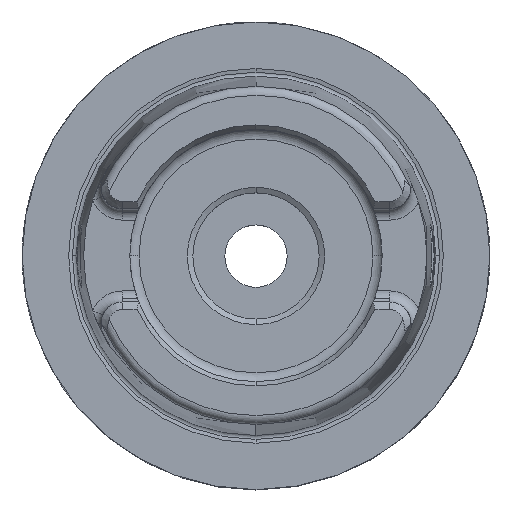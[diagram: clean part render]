
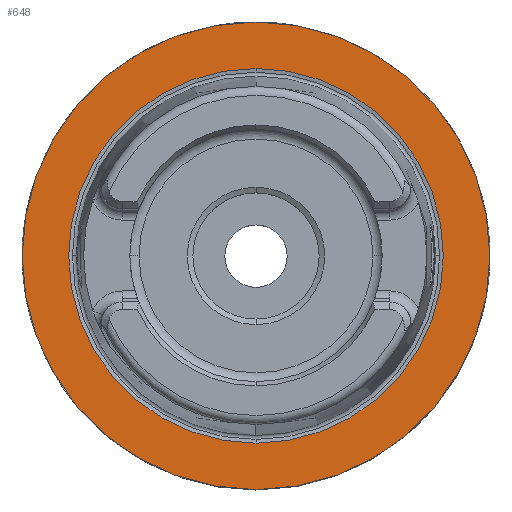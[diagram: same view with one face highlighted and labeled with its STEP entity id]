
A CAD part, top view. The second image highlights one B-rep face of the part: STEP entity #648.
In plain terms, the highlighted planar face has unit normal (0, 0, 1).
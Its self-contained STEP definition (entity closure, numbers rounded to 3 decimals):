
#648=ADVANCED_FACE('',(#1292,#1293),#1294,.T.);
#1292=FACE_OUTER_BOUND('',#2323,.T.);
#1293=FACE_BOUND('',#2324,.T.);
#1294=PLANE('',#2325);
#2323=EDGE_LOOP('',(#4155,#4156));
#2324=EDGE_LOOP('',(#4157,#4158));
#2325=AXIS2_PLACEMENT_3D('',#4159,#4160,#4161);
#4155=ORIENTED_EDGE('',*,*,#4388,.F.);
#4156=ORIENTED_EDGE('',*,*,#4590,.F.);
#4157=ORIENTED_EDGE('',*,*,#4894,.T.);
#4158=ORIENTED_EDGE('',*,*,#4200,.T.);
#4159=CARTESIAN_POINT('',(0.0,27.91,0.));
#4160=DIRECTION('',(0.0,0.0,1.0));
#4161=DIRECTION('',(1.0,0.0,0.0));
#4200=EDGE_CURVE('',#4949,#4946,#4950,.T.);
#4388=EDGE_CURVE('',#5266,#5269,#5270,.T.);
#4590=EDGE_CURVE('',#5269,#5266,#5565,.T.);
#4894=EDGE_CURVE('',#4946,#4949,#5961,.T.);
#4946=VERTEX_POINT('',#6017);
#4949=VERTEX_POINT('',#6021);
#4950=CIRCLE('',#6022,25.238);
#5266=VERTEX_POINT('',#6712);
#5269=VERTEX_POINT('',#6716);
#5270=CIRCLE('',#6717,31.5);
#5565=CIRCLE('',#7289,31.5);
#5961=CIRCLE('',#8395,25.238);
#6017=CARTESIAN_POINT('',(0.0,25.238,0.));
#6021=CARTESIAN_POINT('',(0.,-25.238,0.));
#6022=AXIS2_PLACEMENT_3D('',#8458,#8459,#8460);
#6712=CARTESIAN_POINT('',(0.0,31.5,0.));
#6716=CARTESIAN_POINT('',(0.,-31.5,0.0));
#6717=AXIS2_PLACEMENT_3D('',#8735,#8736,#8737);
#7289=AXIS2_PLACEMENT_3D('',#9022,#9023,#9024);
#8395=AXIS2_PLACEMENT_3D('',#9297,#9298,#9299);
#8458=CARTESIAN_POINT('',(0.0,0.0,0.));
#8459=DIRECTION('',(0.0,0.0,-1.0));
#8460=DIRECTION('',(0.0,1.0,0.0));
#8735=CARTESIAN_POINT('',(0.0,0.0,0.0));
#8736=DIRECTION('',(0.0,0.0,-1.0));
#8737=DIRECTION('',(0.0,1.0,0.0));
#9022=CARTESIAN_POINT('',(0.0,0.0,0.0));
#9023=DIRECTION('',(0.0,0.0,-1.0));
#9024=DIRECTION('',(0.0,1.0,0.0));
#9297=CARTESIAN_POINT('',(0.0,0.0,0.));
#9298=DIRECTION('',(0.0,0.0,-1.0));
#9299=DIRECTION('',(0.0,1.0,0.0));
